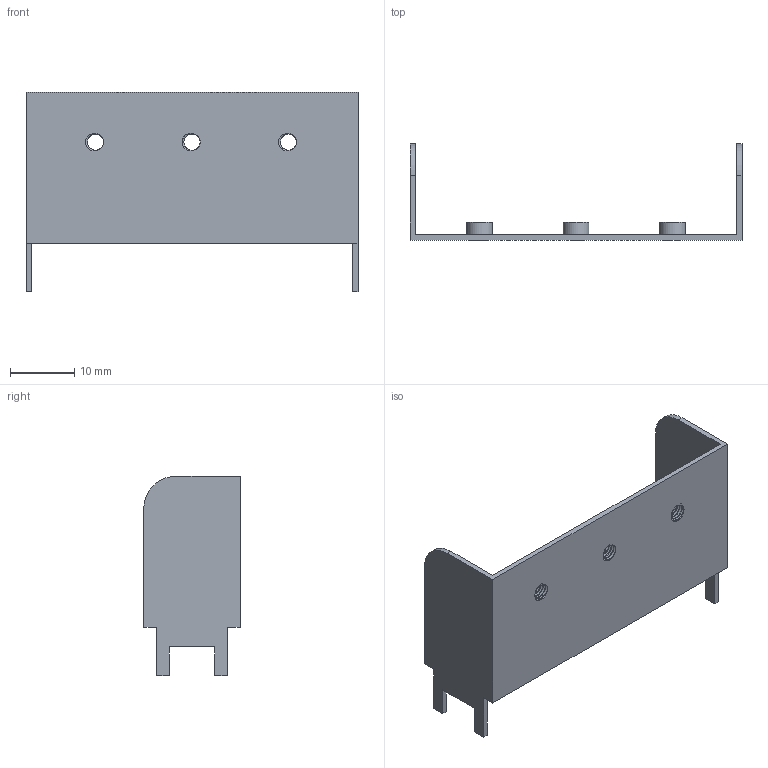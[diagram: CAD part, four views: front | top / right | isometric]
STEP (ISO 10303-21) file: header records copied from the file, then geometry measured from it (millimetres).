
FILE_DESCRIPTION(/* description */ ('','CAx-IF Rec.Pracs.---Representation and Presentation of Product Manufacturing Information (PMI)---4.0---2014-10-13'),/* implementation_level */ '2;1');
FILE_NAME(/* name */ 'TypeC-1-0.8.step',/* time_stamp */ '2025-01-27T02:27:05+09:00',/* author */ (''),/* organization */ (''),/* preprocessor_version */ 'ST-DEVELOPER v20',/* originating_system */ 'Autodesk Translation Framework v13.20.0.188',/* authorisation */ '');
FILE_SCHEMA (('AP242_MANAGED_MODEL_BASED_3D_ENGINEERING_MIM_LF { 1 0 10303 442 1 1 4 }'));
Length unit declared in the file: millimetre
Products named in the file (1): (未保存)
Bounding box: 51.6 x 15 x 31 mm (x, y, z)
Volume: 1602.1 mm3; surface area: 4303 mm2
Topology: 1 solids, 1 shells, 85 faces, 240 edges, 160 vertices
Faces by surface type: cylinder 44, plane 29, bspline 12
Full cylindrical faces by diameter (mm): 2.529 x12, 3.086 x15, 4 x3
Entity records: 6175 total; most frequent: CARTESIAN_POINT 4152, ORIENTED_EDGE 480, DIRECTION 302, EDGE_CURVE 240, VERTEX_POINT 160, LINE 110, VECTOR 110, B_SPLINE_CURVE_WITH_KNOTS 108
